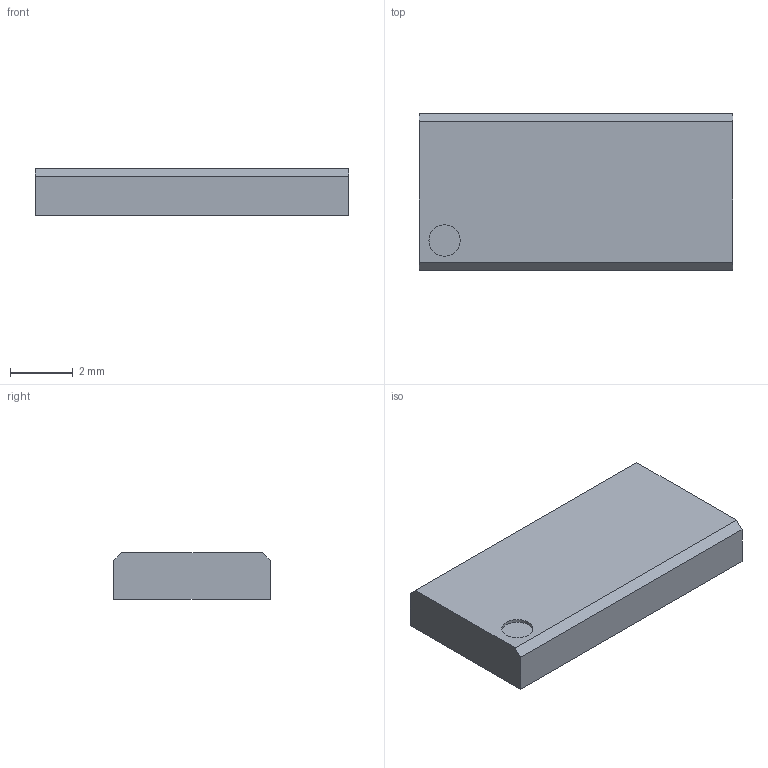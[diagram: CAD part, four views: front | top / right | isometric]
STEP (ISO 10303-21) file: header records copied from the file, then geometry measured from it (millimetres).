
FILE_DESCRIPTION(/* description */ ('STEP AP242 Edition 2','CAx-IF Rec.Pracs.---Representation and Presentation of Product Manufacturing Information (PMI)---4.0---2014-10-13','CAx-IF Rec.Pracs.---3D Tessellated Geometry---0.4---2014-09-14','2;1','CAx-IF Rec.Pracs.---User Defined Attributes---1.5---2016-08-15'),/* implementation_level */ '2;1');
FILE_NAME(/* name */ 'Drone Layout - Surface 203',/* time_stamp */ '2026-10-04T22:22:52Z',/* author */ (''),/* organization */ (''),/* preprocessor_version */ 'ST-DEVELOPER v20',/* originating_system */ 'ONSHAPE BY PTC INC, 1.221',/* authorisation */ ' ');
FILE_SCHEMA (('AP242_MANAGED_MODEL_BASED_3D_ENGINEERING_MIM_LF { 1 0 10303 442 3 1 4 }'));
Length unit declared in the file: metre
Products named in the file (1): Chip:1__Body1
Bounding box: 10 x 5 x 1.5 mm (x, y, z)
Volume: 74.3 mm3; surface area: 142.3 mm2
Topology: 1 solids, 1 shells, 10 faces, 21 edges, 14 vertices
Faces by surface type: plane 9, cylinder 1
Full cylindrical faces by diameter (mm): 1 x1
Entity records: 275 total; most frequent: CARTESIAN_POINT 45, DIRECTION 44, ORIENTED_EDGE 40, EDGE_CURVE 20, LINE 18, VECTOR 18, VERTEX_POINT 14, AXIS2_PLACEMENT_3D 13
